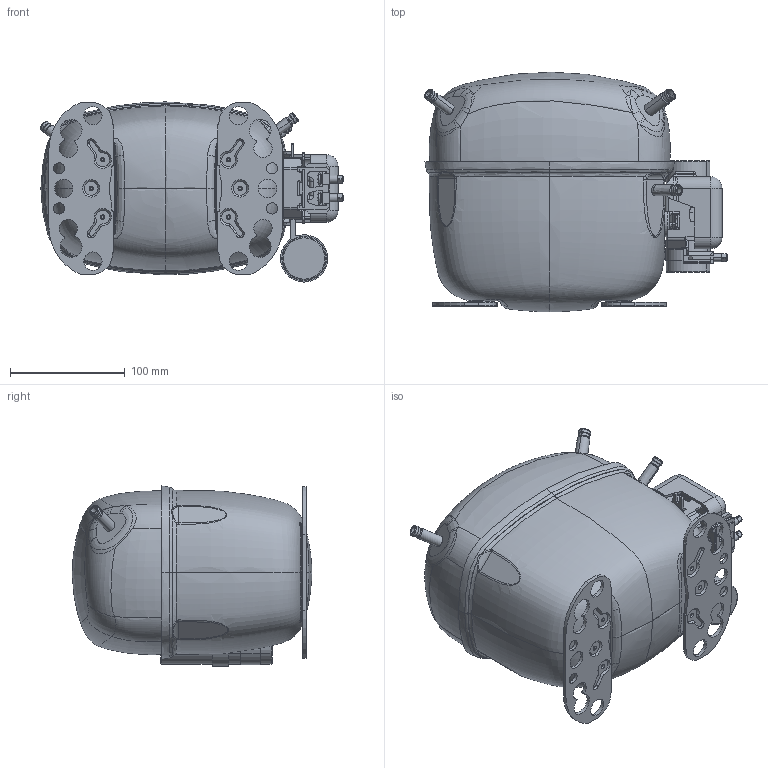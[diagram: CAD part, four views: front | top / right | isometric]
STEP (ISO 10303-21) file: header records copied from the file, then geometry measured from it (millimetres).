
FILE_DESCRIPTION((''),'2;1');
FILE_NAME('104B1014_104B0076_ASM','2024-12-03T09:39:51',('SKHC0530'),(''),'CREO PARAMETRIC BY PTC INC, 2022162','CREO PARAMETRIC BY PTC INC, 2022162','');
FILE_SCHEMA(('CONFIG_CONTROL_DESIGN'));
Products named in the file (21): 104B0402_DEL_AF78; 104B0321; 104B0504; 117-3617_BODY; 117-3617_PINS; 117-3617_GLASS_FUSED; 117-3617_ASM; 103N0510; 104B0488; 104B1014_ASM; 104B0601; 104B0570; 104B0572; 104B0076_ASM; 103N0328_JOCH_1; 103N0444_SCHRAUBE_1; 103N0396; 103N1004_ASM; 103N2009; 117U5017; 104B1014_104B0076_ASM
Assembly tree (26 placements, depth 4):
  104B1014_104B0076_ASM
    104B1014_ASM
      104B0402_DEL_AF78
      104B0321  x2
      104B0504
      117-3617_ASM
        117-3617_BODY
        117-3617_PINS  x3
        117-3617_GLASS_FUSED  x3
      103N0510
      104B0488
    104B0076_ASM
      104B0601
      104B0570
      104B0572
    103N1004_ASM
      103N0328_JOCH_1
      103N0444_SCHRAUBE_1  x2
      103N0396
    103N2009
    117U5017
Bounding box: 264.33 x 209.17 x 157.34 mm (x, y, z)
Volume: 617858.7 mm3; surface area: 378315.3 mm2
Topology: 22 solids, 22 shells, 1325 faces, 3355 edges, 2060 vertices
Faces by surface type: plane 436, cylinder 346, bspline 336, cone 88, torus 64, sphere 34, revolution 12, extrusion 9
Entity records: 106328 total; most frequent: CARTESIAN_POINT 80540, ORIENTED_EDGE 5710, DIRECTION 4709, EDGE_CURVE 2855, VERTEX_POINT 1771, AXIS2_PLACEMENT_3D 1704, VECTOR 1297, LINE 1288
